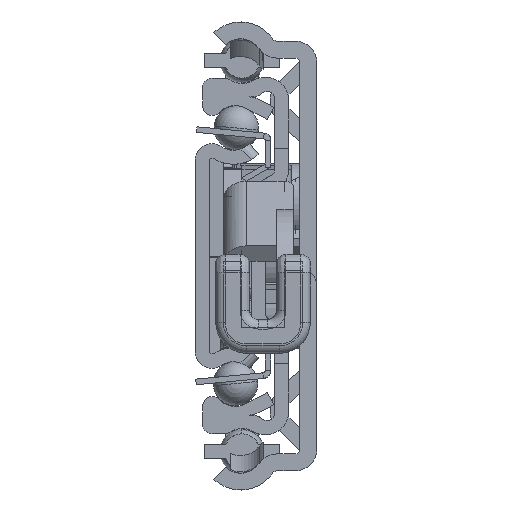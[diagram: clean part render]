
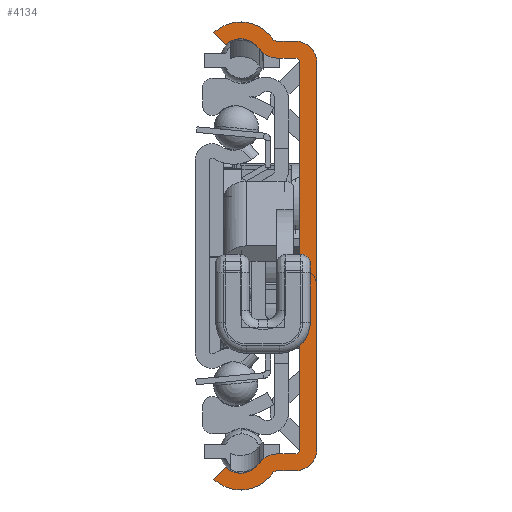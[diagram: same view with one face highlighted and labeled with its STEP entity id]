
A CAD part, left-side view. The second image highlights one B-rep face of the part: STEP entity #4134.
In plain terms, the highlighted planar face has unit normal (-1, 0, 0).
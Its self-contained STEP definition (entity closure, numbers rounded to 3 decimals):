
#1=DIRECTION('',(0.,0.,1.));
#2=VECTOR('',#1,41.3);
#3=CARTESIAN_POINT('',(0.,1.8,-20.65));
#4=LINE('',#3,#2);
#5=CARTESIAN_POINT('',(0.,2.3,20.65));
#6=DIRECTION('',(-1.,0.,0.));
#7=DIRECTION('',(0.,-1.,0.));
#8=AXIS2_PLACEMENT_3D('',#5,#6,#7);
#10=CARTESIAN_POINT('',(0.,4.275,23.45));
#11=DIRECTION('',(1.,0.,0.));
#12=DIRECTION('',(0.,0.,-1.));
#13=AXIS2_PLACEMENT_3D('',#10,#11,#12);
#15=CARTESIAN_POINT('',(0.,8.147,20.82));
#16=DIRECTION('',(-1.,0.,0.));
#17=DIRECTION('',(0.,-0.827,0.562));
#18=AXIS2_PLACEMENT_3D('',#15,#16,#17);
#20=DIRECTION('',(0.,0.683,0.731));
#21=VECTOR('',#20,1.8);
#22=CARTESIAN_POINT('',(0.,9.771,22.559));
#23=LINE('',#22,#21);
#24=CARTESIAN_POINT('',(0.,8.147,20.82));
#25=DIRECTION('',(1.,0.,0.));
#26=DIRECTION('',(0.,0.683,0.731));
#27=AXIS2_PLACEMENT_3D('',#24,#25,#26);
#29=CARTESIAN_POINT('',(0.,4.275,23.45));
#30=DIRECTION('',(-1.,0.,0.));
#31=DIRECTION('',(0.,0.827,-0.562));
#32=AXIS2_PLACEMENT_3D('',#29,#30,#31);
#34=CARTESIAN_POINT('',(0.,2.3,20.65));
#35=DIRECTION('',(1.,0.,0.));
#36=DIRECTION('',(0.,0.,1.));
#37=AXIS2_PLACEMENT_3D('',#34,#35,#36);
#39=CARTESIAN_POINT('',(0.,2.3,-20.65));
#40=DIRECTION('',(1.,0.,0.));
#41=DIRECTION('',(0.,-1.,0.));
#42=AXIS2_PLACEMENT_3D('',#39,#40,#41);
#44=CARTESIAN_POINT('',(0.,4.275,-23.45));
#45=DIRECTION('',(-1.,0.,0.));
#46=DIRECTION('',(0.,0.,1.));
#47=AXIS2_PLACEMENT_3D('',#44,#45,#46);
#49=CARTESIAN_POINT('',(0.,8.147,-20.82));
#50=DIRECTION('',(1.,0.,0.));
#51=DIRECTION('',(0.,-0.827,-0.562));
#52=AXIS2_PLACEMENT_3D('',#49,#50,#51);
#54=DIRECTION('',(0.,-0.683,0.731));
#55=VECTOR('',#54,1.8);
#56=CARTESIAN_POINT('',(0.,11.,-23.875));
#57=LINE('',#56,#55);
#58=CARTESIAN_POINT('',(0.,8.147,-20.82));
#59=DIRECTION('',(-1.,0.,0.));
#60=DIRECTION('',(0.,0.683,-0.731));
#61=AXIS2_PLACEMENT_3D('',#58,#59,#60);
#63=CARTESIAN_POINT('',(0.,4.275,-23.45));
#64=DIRECTION('',(1.,0.,0.));
#65=DIRECTION('',(0.,0.827,0.562));
#66=AXIS2_PLACEMENT_3D('',#63,#64,#65);
#68=CARTESIAN_POINT('',(0.,2.3,-20.65));
#69=DIRECTION('',(-1.,0.,0.));
#70=DIRECTION('',(0.,0.,-1.));
#71=AXIS2_PLACEMENT_3D('',#68,#69,#70);
#573=DIRECTION('',(0.,1.,0.));
#574=VECTOR('',#573,1.975);
#575=CARTESIAN_POINT('',(0.,2.3,-21.15));
#576=LINE('',#575,#574);
#666=DIRECTION('',(0.,-1.,0.));
#667=VECTOR('',#666,1.975);
#668=CARTESIAN_POINT('',(0.,4.275,-22.95));
#669=LINE('',#668,#667);
#697=DIRECTION('',(0.,0.,1.));
#698=VECTOR('',#697,41.3);
#699=CARTESIAN_POINT('',(0.,0.,-20.65));
#700=LINE('',#699,#698);
#1699=DIRECTION('',(0.,1.,0.));
#1700=VECTOR('',#1699,1.975);
#1701=CARTESIAN_POINT('',(0.,2.3,22.95));
#1702=LINE('',#1701,#1700);
#1808=DIRECTION('',(0.,-1.,0.));
#1809=VECTOR('',#1808,1.975);
#1810=CARTESIAN_POINT('',(0.,4.275,21.15));
#1811=LINE('',#1810,#1809);
#3143=CARTESIAN_POINT('',(0.,1.8,-20.65));
#3144=CARTESIAN_POINT('',(0.,1.8,20.65));
#3145=VERTEX_POINT('',#3143);
#3146=VERTEX_POINT('',#3144);
#3147=CARTESIAN_POINT('',(0.,2.3,21.15));
#3148=VERTEX_POINT('',#3147);
#3149=CARTESIAN_POINT('',(0.,4.275,21.15));
#3150=VERTEX_POINT('',#3149);
#3151=CARTESIAN_POINT('',(0.,6.178,22.157));
#3152=VERTEX_POINT('',#3151);
#3153=CARTESIAN_POINT('',(0.,9.771,22.559));
#3154=VERTEX_POINT('',#3153);
#3155=CARTESIAN_POINT('',(0.,11.,23.875));
#3156=VERTEX_POINT('',#3155);
#3157=CARTESIAN_POINT('',(0.,4.689,23.169));
#3158=VERTEX_POINT('',#3157);
#3159=CARTESIAN_POINT('',(0.,4.275,22.95));
#3160=VERTEX_POINT('',#3159);
#3161=CARTESIAN_POINT('',(0.,2.3,22.95));
#3162=VERTEX_POINT('',#3161);
#3163=CARTESIAN_POINT('',(0.,0.,20.65));
#3164=VERTEX_POINT('',#3163);
#3165=CARTESIAN_POINT('',(0.,0.,-20.65));
#3166=VERTEX_POINT('',#3165);
#3167=CARTESIAN_POINT('',(0.,2.3,-22.95));
#3168=VERTEX_POINT('',#3167);
#3169=CARTESIAN_POINT('',(0.,4.275,-22.95));
#3170=VERTEX_POINT('',#3169);
#3171=CARTESIAN_POINT('',(0.,4.689,-23.169));
#3172=VERTEX_POINT('',#3171);
#3173=CARTESIAN_POINT('',(0.,11.,-23.875));
#3174=VERTEX_POINT('',#3173);
#3175=CARTESIAN_POINT('',(0.,9.771,-22.559));
#3176=VERTEX_POINT('',#3175);
#3177=CARTESIAN_POINT('',(0.,6.178,-22.157));
#3178=VERTEX_POINT('',#3177);
#3179=CARTESIAN_POINT('',(0.,4.275,-21.15));
#3180=VERTEX_POINT('',#3179);
#3181=CARTESIAN_POINT('',(0.,2.3,-21.15));
#3182=VERTEX_POINT('',#3181);
#4087=CARTESIAN_POINT('',(0.,0.,0.));
#4088=DIRECTION('',(1.,0.,0.));
#4089=DIRECTION('',(0.,-1.,0.));
#4090=AXIS2_PLACEMENT_3D('',#4087,#4088,#4089);
#4091=PLANE('',#4090);
#4093=ORIENTED_EDGE('',*,*,#4092,.T.);
#4095=ORIENTED_EDGE('',*,*,#4094,.T.);
#4097=ORIENTED_EDGE('',*,*,#4096,.F.);
#4099=ORIENTED_EDGE('',*,*,#4098,.T.);
#4101=ORIENTED_EDGE('',*,*,#4100,.T.);
#4103=ORIENTED_EDGE('',*,*,#4102,.T.);
#4105=ORIENTED_EDGE('',*,*,#4104,.T.);
#4107=ORIENTED_EDGE('',*,*,#4106,.T.);
#4109=ORIENTED_EDGE('',*,*,#4108,.F.);
#4111=ORIENTED_EDGE('',*,*,#4110,.T.);
#4113=ORIENTED_EDGE('',*,*,#4112,.F.);
#4115=ORIENTED_EDGE('',*,*,#4114,.T.);
#4117=ORIENTED_EDGE('',*,*,#4116,.F.);
#4119=ORIENTED_EDGE('',*,*,#4118,.T.);
#4121=ORIENTED_EDGE('',*,*,#4120,.T.);
#4123=ORIENTED_EDGE('',*,*,#4122,.T.);
#4125=ORIENTED_EDGE('',*,*,#4124,.T.);
#4127=ORIENTED_EDGE('',*,*,#4126,.T.);
#4129=ORIENTED_EDGE('',*,*,#4128,.F.);
#4131=ORIENTED_EDGE('',*,*,#4130,.T.);
#4132=EDGE_LOOP('',(#4093,#4095,#4097,#4099,#4101,#4103,#4105,#4107,#4109,#4111,
#4113,#4115,#4117,#4119,#4121,#4123,#4125,#4127,#4129,#4131));
#4133=FACE_OUTER_BOUND('',#4132,.F.);
#9=CIRCLE('',#8,0.5);
#14=CIRCLE('',#13,2.3);
#19=CIRCLE('',#18,2.38);
#28=CIRCLE('',#27,4.18);
#33=CIRCLE('',#32,0.5);
#38=CIRCLE('',#37,2.3);
#43=CIRCLE('',#42,2.3);
#48=CIRCLE('',#47,0.5);
#53=CIRCLE('',#52,4.18);
#62=CIRCLE('',#61,2.38);
#67=CIRCLE('',#66,2.3);
#72=CIRCLE('',#71,0.5);
#4092=EDGE_CURVE('',#3145,#3146,#4,.T.);
#4094=EDGE_CURVE('',#3146,#3148,#9,.T.);
#4096=EDGE_CURVE('',#3150,#3148,#1811,.T.);
#4098=EDGE_CURVE('',#3150,#3152,#14,.T.);
#4100=EDGE_CURVE('',#3152,#3154,#19,.T.);
#4102=EDGE_CURVE('',#3154,#3156,#23,.T.);
#4104=EDGE_CURVE('',#3156,#3158,#28,.T.);
#4106=EDGE_CURVE('',#3158,#3160,#33,.T.);
#4108=EDGE_CURVE('',#3162,#3160,#1702,.T.);
#4110=EDGE_CURVE('',#3162,#3164,#38,.T.);
#4112=EDGE_CURVE('',#3166,#3164,#700,.T.);
#4114=EDGE_CURVE('',#3166,#3168,#43,.T.);
#4116=EDGE_CURVE('',#3170,#3168,#669,.T.);
#4118=EDGE_CURVE('',#3170,#3172,#48,.T.);
#4120=EDGE_CURVE('',#3172,#3174,#53,.T.);
#4122=EDGE_CURVE('',#3174,#3176,#57,.T.);
#4124=EDGE_CURVE('',#3176,#3178,#62,.T.);
#4126=EDGE_CURVE('',#3178,#3180,#67,.T.);
#4128=EDGE_CURVE('',#3182,#3180,#576,.T.);
#4130=EDGE_CURVE('',#3182,#3145,#72,.T.);
#4134=ADVANCED_FACE('',(#4133),#4091,.F.);
